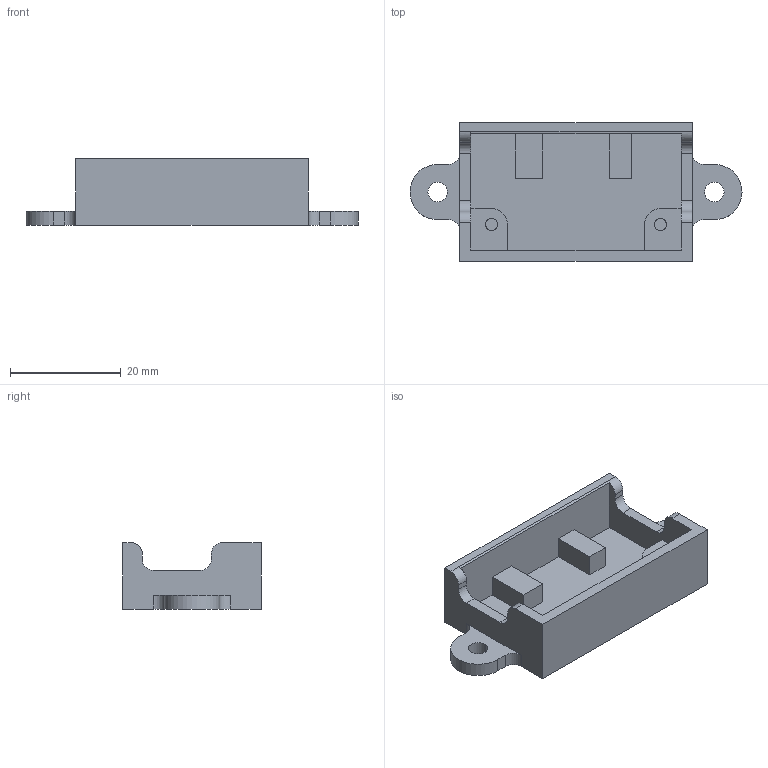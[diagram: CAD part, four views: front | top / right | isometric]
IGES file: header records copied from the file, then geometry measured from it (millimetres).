
Start section: START RECORD GO HERE.
Global section: file name: Spannungsregler_Gehaeuse.igs; native system: IBM CATIA IGES - CATIA Version 5 Release 19 ; preprocessor: CATIA Version 5 Release 19 ; author: Administrator; organization: M0000815; date: 20230401.210446; units: millimetre
Bounding box: 60 x 25 x 12 mm (x, y, z)
Surface area: 5256.7 mm2 (no closed solid volume)
Topology: 0 solids, 0 shells, 64 faces, 358 edges, 358 vertices
Faces by surface type: plane 40, revolution 24
